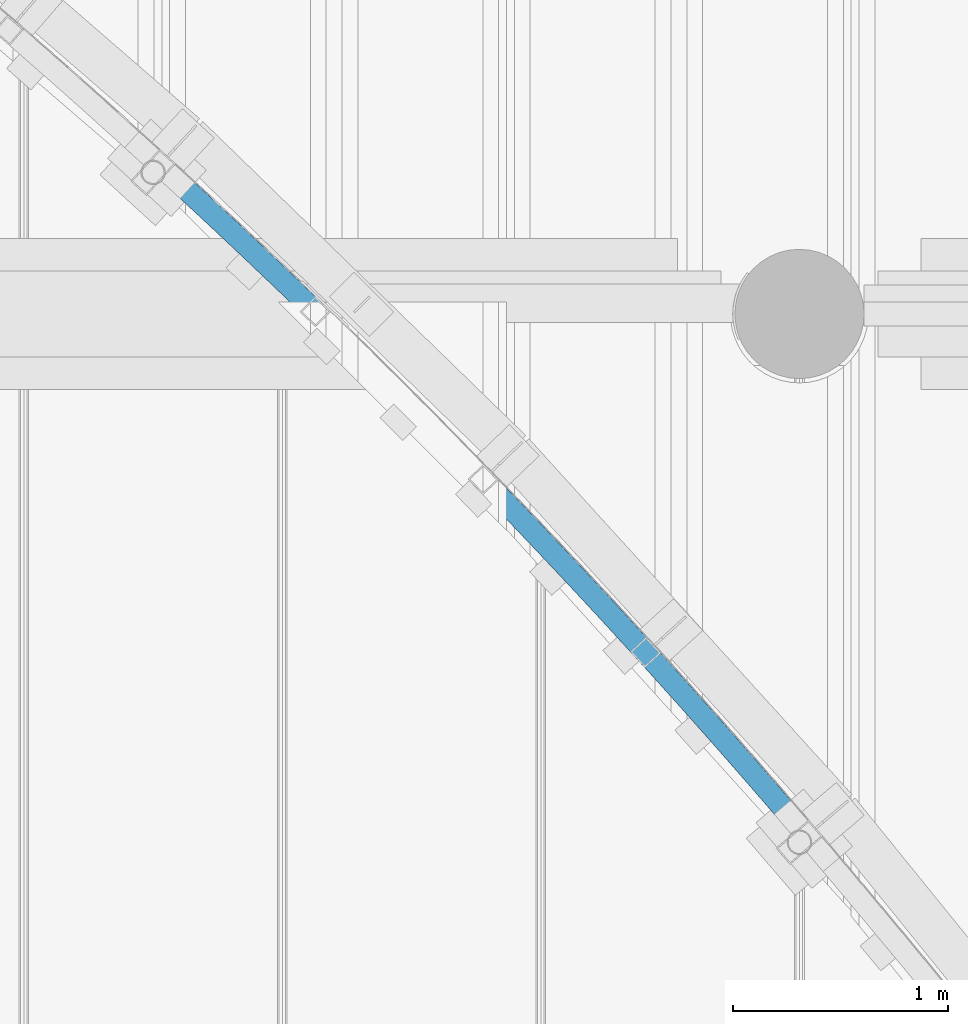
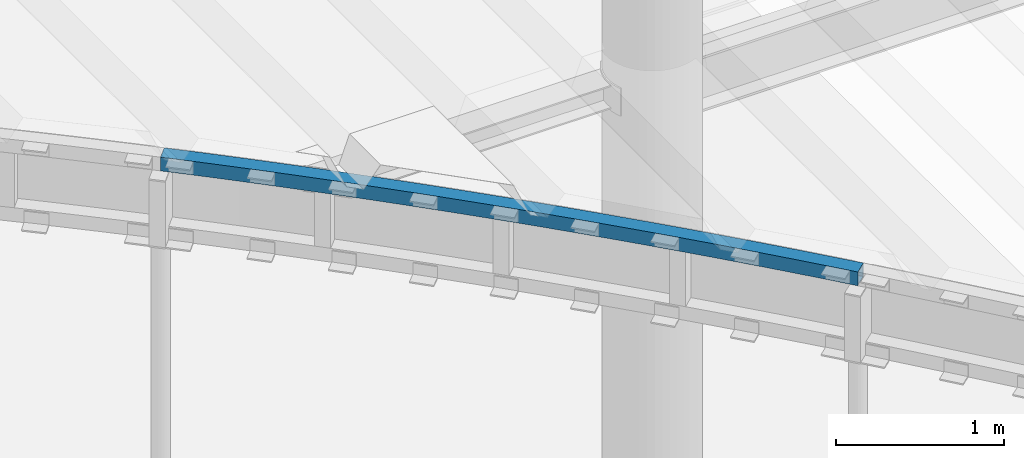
# One storey, part 11 of 98: 1 beam.
"""IFC2X3 building model written with IfcOpenShell, lengths in millimetres."""

from ifc_helpers import new_model, entity, si_unit, converted_unit, derived_unit, direction, frame, origin_with_axes, place, context, subcontext, project, spatial, faceted_brep, material, type_object, element, save


model = new_model("IFC2X3")

# Units and contexts
model_context = context("Model", 3, precision=0.01, world=frame((0.0, 4.29681676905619e-09, 0.0)), true_north=direction((4.01073788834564e-13, 1.0)))
plan_context = context("Plan", 3, precision=0.01, world=frame((0.0, 4.29681676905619e-09, 0.0)), true_north=direction((4.01073788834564e-13, 1.0)))
body_context = subcontext(model_context, "Body", "Model", "MODEL_VIEW")
ifc_project = project(units=[converted_unit("PLANEANGLEUNIT", "DEGREE", entity("IfcPositiveLengthMeasure", 0.0174532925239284), si_unit("PLANEANGLEUNIT", "RADIAN"), dimensions=[0, 0, 0, 0, 0, 0, 0]), si_unit("AREAUNIT", "SQUARE_METRE"), si_unit("LENGTHUNIT", "METRE", prefix="MILLI"), si_unit("MASSUNIT", "GRAM", prefix="KILO"), si_unit("POWERUNIT", "WATT"), si_unit("PRESSUREUNIT", "PASCAL"), si_unit("FORCEUNIT", "NEWTON", prefix="KILO"), si_unit("ELECTRICCURRENTUNIT", "AMPERE"), si_unit("THERMODYNAMICTEMPERATUREUNIT", "DEGREE_CELSIUS"), si_unit("TIMEUNIT", "SECOND"), si_unit("VOLUMEUNIT", "CUBIC_METRE"), derived_unit("LINEARVELOCITYUNIT", [(si_unit("LENGTHUNIT", "METRE"), 1), (si_unit("TIMEUNIT", "SECOND"), -1)]), derived_unit("VOLUMETRICFLOWRATEUNIT", [(si_unit("VOLUMEUNIT", "CUBIC_METRE"), 1), (si_unit("TIMEUNIT", "SECOND"), -1)]), derived_unit("THERMALTRANSMITTANCEUNIT", [(si_unit("POWERUNIT", "WATT"), 1), (si_unit("THERMODYNAMICTEMPERATUREUNIT", "KELVIN"), -1), (si_unit("AREAUNIT", "SQUARE_METRE"), -1)])], contexts=[model_context, plan_context])

# Site, building, storey
site_placement = place(None, frame((0.0, -4.29681676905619e-09, 0.0), z_axis=(0.0, 0.0, 1.0), x_axis=(1.0, 0.0, 0.0)))
site = spatial("IfcSite", under=ifc_project, at=site_placement, Name="Gardermoen", CompositionType="ELEMENT")
building_placement = place(site_placement, frame((0.0, 4.29681676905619e-09, 0.0), z_axis=(0.0, 0.0, 1.0), x_axis=(1.0, 0.0, 0.0)))
building = spatial("IfcBuilding", under=site, at=building_placement, Name="TS", CompositionType="ELEMENT")
storey_placement = place(building_placement, origin_with_axes())
storey = spatial("IfcBuildingStorey", under=building, at=storey_placement, Name="D", CompositionType="ELEMENT", Elevation=0.0)

# Beam
ifc_material = material(Name="STEEL/S355")
beam_type = type_object("IfcBeamType", Name="RHS100*6.3", PredefinedType="NOTDEFINED")
beam_placement = place(storey_placement, frame((526031.026674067, 406191.052703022, 207050.0), z_axis=(0.0, 0.0, 1.0), x_axis=(0.69236116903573, -0.721551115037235, 0.0)))
element("IfcBeam", 1, at=beam_placement, inside=storey, type_object=beam_type, material=ifc_material, Name="STÅLBJELKE", ObjectType="RHS100*6.3", context=body_context, shape_type="Brep", body=[
    faceted_brep([(-3.23943050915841, 49.894950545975, 50.0), (3.23943050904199, -49.8949505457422, 50.0), (93.3062575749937, -44.1646306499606, 50.0), (87.0862092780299, 55.6417368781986, 50.0), (183.387642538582, -38.6679055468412, 50.0), (177.426448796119, 61.1542571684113, 50.0), (273.48297955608, -33.4048122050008, 50.0), (267.780680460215, 66.4324743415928, 50.0), (363.591662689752, -28.3753860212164, 50.0), (358.148296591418, 71.4763528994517, 50.0), (453.71308591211, -23.5796608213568, 50.0), (448.528689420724, 76.2858589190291, 50.0), (543.846643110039, -19.0176688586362, 50.0), (538.921251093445, 80.8609600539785, 50.0), (633.991728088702, -14.6894408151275, 50.0), (629.325373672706, 85.2016255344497, 50.0), (724.147734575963, -10.5950058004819, 50.0), (719.740449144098, 89.3078261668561, 50.0), (814.314056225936, -6.7343913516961, 50.0), (810.165869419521, 93.1795343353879, 50.0), (904.490086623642, -3.107623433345, 50.0), (900.601026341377, 96.8167240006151, 50.0), (994.675219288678, 0.285273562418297, 50.0), (991.04531168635, 100.219370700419, 50.0), (1084.86884767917, 3.44427681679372, 50.0), (1081.49811717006, 103.387451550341, 50.0), (1175.07036519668, 6.36936508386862, 50.0), (1171.95883445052, 106.320945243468, 50.0), (1265.27916518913, 9.06051869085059, 50.0), (1262.42685513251, 109.019832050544, 50.0), (1355.49464095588, 11.5177195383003, 50.0), (1352.90157077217, 111.484093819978, 50.0), (1445.71618575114, 13.7409511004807, 50.0), (1443.38237288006, 113.713713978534, 50.0), (1535.94319278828, 15.7301984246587, 50.0), (1533.86865292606, 115.708677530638, 50.0), (1626.17505524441, 17.4854481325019, 50.0), (1624.35980234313, 117.468971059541, 50.0), (1716.41116626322, 19.0066884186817, 50.0), (1714.85521253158, 118.994582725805, 50.0), (1806.65091896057, 20.2939090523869, 50.0), (1805.35427486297, 120.285502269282, 50.0), (1896.89370642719, 21.3471013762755, 50.0), (1895.85638068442, 121.34172100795, 50.0), (1987.13892173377, 22.166258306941, 50.0), (1986.36092132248, 122.163231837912, 50.0), (2077.38595793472, 22.7513743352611, 50.0), (2076.86728808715, 122.750029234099, 50.0), (2167.63420807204, 23.102445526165, 50.0), (2167.3748722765, 123.102109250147, 50.0), (2257.88306517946, 23.2194695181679, 50.0), (2257.88306518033, 123.219469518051, 50.0), (2348.13192228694, 23.1024455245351, 50.0), (2348.39125808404, 123.102109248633, 50.0), (2438.38017242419, 22.7513743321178, 50.0), (2438.8988422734, 122.750029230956, 50.0), (2528.62720862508, 22.1662583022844, 50.0), (2529.40520903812, 122.163231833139, 50.0), (2618.87242393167, 21.3471013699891, 50.0), (2619.90974967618, 121.341721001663, 50.0), (2709.11521139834, 20.2939090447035, 50.0), (2710.41185549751, 120.285502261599, 50.0), (2799.35496409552, 19.0066884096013, 50.0), (2800.91091782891, 118.994582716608, 50.0), (2889.59107511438, 17.4854481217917, 50.0), (2891.40632801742, 117.468971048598, 50.0), (2979.8229375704, 15.7301984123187, 50.0), (2981.89747743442, 115.708677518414, 50.0), (3070.04994460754, 13.7409510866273, 50.0), (3072.38375748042, 113.713713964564, 50.0), (3160.27148940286, 11.5177195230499, 50.0), (3162.86455958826, 111.484093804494, 50.0), (3250.48696516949, 9.06051867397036, 50.0), (3253.33927522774, 109.019832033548, 50.0), (3340.69576516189, 6.36936506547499, 50.0), (3343.80729590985, 106.320945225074, 50.0), (3430.89728267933, 3.4442767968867, 50.0), (3434.26801319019, 103.387451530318, 50.0), (3521.09091106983, 0.285273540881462, 50.0), (3524.72081867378, 100.219370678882, 50.0), (3611.27604373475, -3.10762345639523, 50.0), (3615.16510401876, 96.8167239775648, 50.0), (3701.45207413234, -6.73439137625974, 50.0), (3705.60026094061, 93.1795343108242, 50.0), (3791.61839578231, -10.5950058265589, 50.0), (3796.02568121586, 89.3078261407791, 50.0), (3881.77440226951, -14.6894408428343, 50.0), (3886.44075668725, 85.2016255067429, 50.0), (3971.91948724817, -19.0176688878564, 50.0), (3976.8448792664, 80.8609600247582, 50.0), (4062.05304444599, -23.579660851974, 50.0), (4067.237440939, 76.2858588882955, 50.0), (4152.17446766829, -28.3753860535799, 50.0), (4157.61783376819, 71.4763528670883, 50.0), (4242.2831508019, -33.4048122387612, 50.0), (4247.98544989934, 66.4324743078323, 50.0), (4152.17446766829, -28.3753860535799, -50.0), (4242.2831508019, -33.4048122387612, -50.0), (4062.05304444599, -23.579660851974, -50.0), (3971.91948724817, -19.0176688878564, -50.0), (3881.77440226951, -14.6894408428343, -50.0), (3791.61839578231, -10.5950058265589, -50.0), (3701.45207413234, -6.73439137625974, -50.0), (3611.27604373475, -3.10762345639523, -50.0), (3521.09091106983, 0.285273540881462, -50.0), (3430.89728267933, 3.4442767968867, -50.0), (3340.69576516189, 6.36936506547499, -50.0), (3250.48696516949, 9.06051867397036, -50.0), (3160.27148940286, 11.5177195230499, -50.0), (3070.04994460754, 13.7409510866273, -50.0), (2979.8229375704, 15.7301984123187, -50.0), (2889.59107511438, 17.4854481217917, -50.0), (2799.35496409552, 19.0066884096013, -50.0), (2709.11521139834, 20.2939090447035, -50.0), (2618.87242393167, 21.3471013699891, -50.0), (2528.62720862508, 22.1662583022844, -50.0), (2438.38017242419, 22.7513743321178, -50.0), (2348.13192228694, 23.1024455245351, -50.0), (2257.88306517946, 23.2194695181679, -50.0), (2167.63420807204, 23.102445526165, -50.0), (2077.38595793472, 22.7513743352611, -50.0), (1987.13892173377, 22.166258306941, -50.0), (1896.89370642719, 21.3471013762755, -50.0), (1806.65091896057, 20.2939090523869, -50.0), (1716.41116626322, 19.0066884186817, -50.0), (1626.17505524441, 17.4854481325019, -50.0), (1535.94319278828, 15.7301984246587, -50.0), (1445.71618575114, 13.7409511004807, -50.0), (1355.49464095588, 11.5177195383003, -50.0), (1265.27916518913, 9.06051869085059, -50.0), (1175.07036519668, 6.36936508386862, -50.0), (1084.86884767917, 3.44427681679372, -50.0), (994.675219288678, 0.285273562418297, -50.0), (904.490086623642, -3.107623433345, -50.0), (814.314056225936, -6.7343913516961, -50.0), (724.147734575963, -10.5950058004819, -50.0), (633.991728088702, -14.6894408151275, -50.0), (543.846643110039, -19.0176688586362, -50.0), (453.71308591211, -23.5796608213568, -50.0), (363.591662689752, -28.3753860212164, -50.0), (273.48297955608, -33.4048122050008, -50.0), (183.387642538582, -38.6679055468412, -50.0), (93.3062575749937, -44.1646306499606, -50.0), (3.23943050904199, -49.8949505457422, -50.0), (-3.23943050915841, 49.894950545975, -50.0), (87.0862092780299, 55.6417368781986, -50.0), (177.426448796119, 61.1542571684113, -50.0), (267.780680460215, 66.4324743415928, -50.0), (358.148296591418, 71.4763528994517, -50.0), (448.528689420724, 76.2858589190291, -50.0), (538.921251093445, 80.8609600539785, -50.0), (629.325373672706, 85.2016255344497, -50.0), (719.740449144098, 89.3078261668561, -50.0), (810.165869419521, 93.1795343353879, -50.0), (900.601026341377, 96.8167240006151, -50.0), (991.04531168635, 100.219370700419, -50.0), (1081.49811717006, 103.387451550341, -50.0), (1171.95883445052, 106.320945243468, -50.0), (1262.42685513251, 109.019832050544, -50.0), (1352.90157077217, 111.484093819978, -50.0), (1443.38237288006, 113.713713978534, -50.0), (1533.86865292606, 115.708677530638, -50.0), (1624.35980234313, 117.468971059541, -50.0), (1714.85521253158, 118.994582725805, -50.0), (1805.35427486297, 120.285502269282, -50.0), (1895.85638068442, 121.34172100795, -50.0), (1986.36092132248, 122.163231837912, -50.0), (2076.86728808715, 122.750029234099, -50.0), (2167.3748722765, 123.102109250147, -50.0), (2257.88306518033, 123.219469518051, -50.0), (2348.39125808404, 123.102109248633, -50.0), (2438.8988422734, 122.750029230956, -50.0), (2529.40520903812, 122.163231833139, -50.0), (2619.90974967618, 121.341721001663, -50.0), (2710.41185549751, 120.285502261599, -50.0), (2800.91091782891, 118.994582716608, -50.0), (2891.40632801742, 117.468971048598, -50.0), (2981.89747743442, 115.708677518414, -50.0), (3072.38375748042, 113.713713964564, -50.0), (3162.86455958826, 111.484093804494, -50.0), (3253.33927522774, 109.019832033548, -50.0), (3343.80729590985, 106.320945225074, -50.0), (3434.26801319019, 103.387451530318, -50.0), (3524.72081867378, 100.219370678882, -50.0), (3615.16510401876, 96.8167239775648, -50.0), (3705.60026094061, 93.1795343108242, -50.0), (3796.02568121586, 89.3078261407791, -50.0), (3886.44075668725, 85.2016255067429, -50.0), (3976.8448792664, 80.8609600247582, -50.0), (4067.237440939, 76.2858588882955, -50.0), (4157.61783376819, 71.4763528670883, -50.0), (4247.98544989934, 66.4324743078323, -50.0), (4329.0159970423, 61.6989181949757, -50.0), (4323.42981294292, -38.1451514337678, -50.0), (4323.42981294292, -38.1451514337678, 50.0), (4329.0159970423, 61.6989181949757, 50.0), (-2.83126225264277, 43.6081865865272, 43.6999998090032), (2.83126225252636, -43.6081865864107, 43.6999998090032), (2.83126225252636, -43.6081865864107, -43.6999998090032), (-2.83126225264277, 43.6081865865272, -43.6999998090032), (87.4780723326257, 49.3539355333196, -43.6999998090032), (87.4780723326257, 49.3539355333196, 43.6999998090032), (92.914394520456, -37.8768293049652, 43.6999998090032), (92.914394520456, -37.8768293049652, -43.6999998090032), (183.012087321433, -32.3791091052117, -43.6999998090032), (177.802004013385, 54.8654607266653, -43.6999998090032), (177.802004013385, 54.8654607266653, 43.6999998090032), (183.012087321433, -32.3791091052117, 43.6999998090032), (273.123734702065, -27.1150629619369, 43.6999998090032), (273.123734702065, -27.1150629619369, -43.6999998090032), (268.13992531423, 60.1427250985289, -43.6999998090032), (268.13992531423, 60.1427250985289, 43.6999998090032), (358.491228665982, 65.1856931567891, 43.6999998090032), (363.248730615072, -22.0847262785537, 43.6999998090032), (363.248730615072, -22.0847262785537, -43.6999998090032), (358.491228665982, 65.1856931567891, -43.6999998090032), (448.85530640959, 69.9943309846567, -43.6999998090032), (448.85530640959, 69.9943309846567, 43.6999998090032), (453.386468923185, -17.288132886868, 43.6999998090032), (453.386468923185, -17.288132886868, -43.6999998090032), (543.536343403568, -12.7253150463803, -43.6999998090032), (539.231550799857, 74.5686062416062, -43.6999998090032), (539.231550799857, 74.5686062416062, 43.6999998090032), (543.536343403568, -12.7253150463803, 43.6999998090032), (633.697747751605, -8.39630344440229, 43.6999998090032), (633.697747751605, -8.39630344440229, -43.6999998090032), (629.619354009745, 78.9084881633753, -43.6999998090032), (629.619354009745, 78.9084881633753, 43.6999998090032), (720.018108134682, 83.0139475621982, 43.6999998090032), (723.870075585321, -4.30112719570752, 43.6999998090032), (723.870075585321, -4.30112719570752, -43.6999998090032), (720.018108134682, 83.0139475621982, -43.6999998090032), (810.427205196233, 86.8849568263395, -43.6999998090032), (810.427205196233, 86.8849568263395, 43.6999998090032), (814.052720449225, -0.439813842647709, 43.6999998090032), (814.052720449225, -0.439813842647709, -43.6999998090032), (904.2450758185, 3.18761064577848, -43.6999998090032), (900.846037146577, 90.5214899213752, -43.6999998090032), (900.846037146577, 90.5214899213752, 43.6999998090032), (904.2450758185, 3.18761064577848, 43.6999998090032), (994.446535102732, 6.58112187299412, 43.6999998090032), (994.446535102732, 6.58112187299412, -43.6999998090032), (991.273995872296, 93.9235223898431, -43.6999998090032), (991.273995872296, 93.9235223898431, 43.6999998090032), (1081.71047319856, 97.0910313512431, 43.6999998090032), (1084.65649165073, 9.7406970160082, 43.6999998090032), (1084.65649165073, 9.7406970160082, -43.6999998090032), (1081.71047319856, 97.0910313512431, -43.6999998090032), (1172.15486089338, 100.023995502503, -43.6999998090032), (1172.15486089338, 100.023995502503, 43.6999998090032), (1174.8743387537, 12.6663148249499, 43.6999998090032), (1174.8743387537, 12.6663148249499, -43.6999998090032), (1265.09946965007, 15.3579556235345, -43.6999998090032), (1262.60655067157, 102.722395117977, -43.6999998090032), (1262.60655067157, 102.722395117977, 43.6999998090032), (1265.09946965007, 15.3579556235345, 43.6999998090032), (1355.33127752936, 17.8156013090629, 43.6999998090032), (1355.33127752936, 17.8156013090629, -43.6999998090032), (1353.06493419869, 105.186212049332, -43.6999998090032), (1353.06493419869, 105.186212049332, 43.6999998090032), (1443.52940309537, 107.415429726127, 43.6999998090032), (1445.56915553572, 20.0392353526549, 43.6999998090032), (1445.56915553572, 20.0392353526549, -43.6999998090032), (1443.52940309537, 107.415429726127, -43.6999998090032), (1533.99934894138, 109.410033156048, -43.6999998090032), (1533.99934894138, 109.410033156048, 43.6999998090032), (1535.81249677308, 22.0288427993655, 43.6999998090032), (1535.81249677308, 22.0288427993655, -43.6999998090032), (1626.06069430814, 23.7844102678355, -43.6999998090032), (1624.47416327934, 111.170008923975, -43.6999998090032), (1624.47416327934, 111.170008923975, 43.6999998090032), (1626.06069430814, 23.7844102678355, 43.6999998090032), (1716.3131411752, 25.3059259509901, 43.6999998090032), (1716.3131411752, 25.3059259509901, -43.6999998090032), (1714.95323761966, 112.695345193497, -43.6999998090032), (1714.95323761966, 112.695345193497, 43.6999998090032), (1805.43596344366, 113.986031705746, 43.6999998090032), (1806.56923037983, 26.5933796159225, 43.6999998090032), (1806.56923037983, 26.5933796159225, -43.6999998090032), (1805.43596344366, 113.986031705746, -43.6999998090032), (1895.92173220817, 115.042059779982, -43.6999998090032), (1895.92173220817, 115.042059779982, 43.6999998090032), (1896.82835490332, 27.6467626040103, 43.6999998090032), (1896.82835490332, 27.6467626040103, -43.6999998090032), (1987.08990770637, 28.4660678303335, -43.6999998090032), (1986.40993534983, 115.863422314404, -43.6999998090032), (1986.40993534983, 115.863422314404, 43.6999998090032), (1987.08990770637, 28.4660678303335, 43.6999998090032), (2077.35328173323, 29.0512897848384, 43.6999998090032), (2077.35328173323, 29.0512897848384, -43.6999998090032), (2076.89996428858, 116.450113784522, -43.6999998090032), (2076.89996428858, 116.450113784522, 43.6999998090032), (2167.39121043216, 116.802130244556, 43.6999998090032), (2167.61786991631, 29.4024245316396, 43.6999998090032), (2167.61786991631, 29.4024245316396, -43.6999998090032), (2167.39121043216, 116.802130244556, -43.6999998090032), (2257.88306518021, 116.919469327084, -43.6999998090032), (2257.88306518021, 116.919469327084, 43.6999998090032), (2257.88306517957, 29.519469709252, 43.6999998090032), (2257.88306517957, 29.519469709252, -43.6999998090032), (2348.1482604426, 29.4024245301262, -43.6999998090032), (2348.37491992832, 116.802130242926, -43.6999998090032), (2348.37491992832, 116.802130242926, 43.6999998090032), (2348.1482604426, 29.4024245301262, 43.6999998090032), (2438.41284862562, 29.0512897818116, 43.6999998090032), (2438.41284862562, 29.0512897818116, -43.6999998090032), (2438.86616607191, 116.450113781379, -43.6999998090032), (2438.86616607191, 116.450113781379, 43.6999998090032), (2529.35619501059, 115.863422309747, 43.6999998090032), (2528.67622265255, 28.4660678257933, 43.6999998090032), (2528.67622265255, 28.4660678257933, -43.6999998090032), (2529.35619501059, 115.863422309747, -43.6999998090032), (2619.8443981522, 115.042059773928, -43.6999998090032), (2619.8443981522, 115.042059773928, 43.6999998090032), (2618.93777545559, 27.6467625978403, 43.6999998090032), (2618.93777545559, 27.6467625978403, -43.6999998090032), (2709.19689997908, 26.5933796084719, -43.6999998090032), (2710.33016691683, 113.986031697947, -43.6999998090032), (2710.33016691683, 113.986031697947, 43.6999998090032), (2709.19689997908, 26.5933796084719, 43.6999998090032), (2799.45298918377, 25.3059259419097, 43.6999998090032), (2799.45298918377, 25.3059259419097, -43.6999998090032), (2800.81289274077, 112.695345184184, -43.6999998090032), (2800.81289274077, 112.695345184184, 43.6999998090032), (2891.29196708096, 111.170008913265, 43.6999998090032), (2889.70543605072, 23.7844102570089, 43.6999998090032), (2889.70543605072, 23.7844102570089, -43.6999998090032), (2891.29196708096, 111.170008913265, -43.6999998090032), (2981.76678141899, 109.410033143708, -43.6999998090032), (2981.76678141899, 109.410033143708, 43.6999998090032), (2979.95363358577, 22.0288427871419, 43.6999998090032), (2979.95363358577, 22.0288427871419, -43.6999998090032), (3070.19697482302, 20.0392353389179, -43.6999998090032), (3072.23672726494, 107.41542971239, -43.6999998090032), (3072.23672726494, 107.41542971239, 43.6999998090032), (3070.19697482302, 20.0392353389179, 43.6999998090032), (3160.43485282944, 17.8156012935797, 43.6999998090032), (3160.43485282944, 17.8156012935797, -43.6999998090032), (3162.70119616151, 105.186212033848, -43.6999998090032), (3162.70119616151, 105.186212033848, 43.6999998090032), (3253.15957968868, 102.72239510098, 43.6999998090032), (3250.66666070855, 15.3579556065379, 43.6999998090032), (3250.66666070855, 15.3579556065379, -43.6999998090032), (3253.15957968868, 102.72239510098, -43.6999998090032), (3343.61126946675, 100.023995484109, -43.6999998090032), (3343.61126946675, 100.023995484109, 43.6999998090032), (3340.89179160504, 12.6663148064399, 43.6999998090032), (3340.89179160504, 12.6663148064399, -43.6999998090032), (3431.10963870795, 9.74069699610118, -43.6999998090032), (3434.05565716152, 97.0910313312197, -43.6999998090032), (3434.05565716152, 97.0910313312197, 43.6999998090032), (3431.10963870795, 9.74069699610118, 43.6999998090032), (3521.31959525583, 6.5811218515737, 43.6999998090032), (3521.31959525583, 6.5811218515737, -43.6999998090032), (3524.49213448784, 93.9235223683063, -43.6999998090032), (3524.49213448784, 93.9235223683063, 43.6999998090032), (3614.92009321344, 90.5214898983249, 43.6999998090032), (3611.52105454, 3.18761062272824, 43.6999998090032), (3611.52105454, 3.18761062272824, -43.6999998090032), (3614.92009321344, 90.5214898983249, -43.6999998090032), (3705.33892516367, 86.8849568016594, -43.6999998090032), (3705.33892516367, 86.8849568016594, 43.6999998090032), (3701.71340990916, -0.439813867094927, 43.6999998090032), (3701.71340990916, -0.439813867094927, -43.6999998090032), (3791.89605477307, -4.30112722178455, -43.6999998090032), (3795.74802222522, 83.0139475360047, -43.6999998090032), (3795.74802222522, 83.0139475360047, 43.6999998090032), (3791.89605477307, -4.30112722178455, 43.6999998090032), (3882.06838260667, -8.39630347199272, 43.6999998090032), (3882.06838260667, -8.39630347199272, -43.6999998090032), (3886.1467763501, 78.9084881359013, -43.6999998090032), (3886.1467763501, 78.9084881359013, 43.6999998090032), (3976.53457955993, 74.5686062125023, 43.6999998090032), (3972.2297869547, -12.7253150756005, 43.6999998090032), (3972.2297869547, -12.7253150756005, -43.6999998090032), (3976.53457955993, 74.5686062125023, -43.6999998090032), (4066.91082395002, 69.9943309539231, -43.6999998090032), (4066.91082395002, 69.9943309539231, 43.6999998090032), (4062.37966143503, -17.2881329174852, 43.6999998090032), (4062.37966143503, -17.2881329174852, -43.6999998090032), (4152.51739974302, -22.0847263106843, -43.6999998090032), (4157.27490169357, 65.1856931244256, -43.6999998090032), (4157.27490169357, 65.1856931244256, 43.6999998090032), (4152.51739974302, -22.0847263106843, 43.6999998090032), (4242.64239565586, -27.1150629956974, 43.6999998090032), (4242.64239565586, -27.1150629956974, -43.6999998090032), (4247.62620504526, 60.1427250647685, -43.6999998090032), (4247.62620504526, 60.1427250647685, 43.6999998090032), (4328.66406743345, 55.4087416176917, 43.6999998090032), (4323.78174255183, -31.8549748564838, 43.6999998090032), (4323.78174255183, -31.8549748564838, -43.6999998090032), (4328.66406743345, 55.4087416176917, -43.6999998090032)], [[[0, 1, 2, 3]], [[3, 2, 4, 5]], [[5, 4, 6, 7]], [[7, 6, 8, 9]], [[9, 8, 10, 11]], [[11, 10, 12, 13]], [[13, 12, 14, 15]], [[15, 14, 16, 17]], [[17, 16, 18, 19]], [[19, 18, 20, 21]], [[21, 20, 22, 23]], [[23, 22, 24, 25]], [[25, 24, 26, 27]], [[27, 26, 28, 29]], [[29, 28, 30, 31]], [[31, 30, 32, 33]], [[33, 32, 34, 35]], [[35, 34, 36, 37]], [[37, 36, 38, 39]], [[39, 38, 40, 41]], [[41, 40, 42, 43]], [[43, 42, 44, 45]], [[45, 44, 46, 47]], [[47, 46, 48, 49]], [[49, 48, 50, 51]], [[51, 50, 52, 53]], [[53, 52, 54, 55]], [[55, 54, 56, 57]], [[57, 56, 58, 59]], [[59, 58, 60, 61]], [[61, 60, 62, 63]], [[63, 62, 64, 65]], [[65, 64, 66, 67]], [[67, 66, 68, 69]], [[69, 68, 70, 71]], [[71, 70, 72, 73]], [[73, 72, 74, 75]], [[75, 74, 76, 77]], [[77, 76, 78, 79]], [[79, 78, 80, 81]], [[81, 80, 82, 83]], [[83, 82, 84, 85]], [[85, 84, 86, 87]], [[87, 86, 88, 89]], [[89, 88, 90, 91]], [[91, 90, 92, 93]], [[93, 92, 94, 95]], [[92, 96, 97, 94]], [[90, 98, 96, 92]], [[88, 99, 98, 90]], [[86, 100, 99, 88]], [[84, 101, 100, 86]], [[82, 102, 101, 84]], [[80, 103, 102, 82]], [[78, 104, 103, 80]], [[76, 105, 104, 78]], [[74, 106, 105, 76]], [[72, 107, 106, 74]], [[70, 108, 107, 72]], [[68, 109, 108, 70]], [[66, 110, 109, 68]], [[64, 111, 110, 66]], [[62, 112, 111, 64]], [[60, 113, 112, 62]], [[58, 114, 113, 60]], [[56, 115, 114, 58]], [[54, 116, 115, 56]], [[52, 117, 116, 54]], [[50, 118, 117, 52]], [[48, 119, 118, 50]], [[46, 120, 119, 48]], [[44, 121, 120, 46]], [[42, 122, 121, 44]], [[40, 123, 122, 42]], [[38, 124, 123, 40]], [[36, 125, 124, 38]], [[34, 126, 125, 36]], [[32, 127, 126, 34]], [[30, 128, 127, 32]], [[28, 129, 128, 30]], [[26, 130, 129, 28]], [[24, 131, 130, 26]], [[22, 132, 131, 24]], [[20, 133, 132, 22]], [[18, 134, 133, 20]], [[16, 135, 134, 18]], [[14, 136, 135, 16]], [[12, 137, 136, 14]], [[10, 138, 137, 12]], [[8, 139, 138, 10]], [[6, 140, 139, 8]], [[4, 141, 140, 6]], [[2, 142, 141, 4]], [[1, 143, 142, 2]], [[143, 144, 145, 142]], [[142, 145, 146, 141]], [[141, 146, 147, 140]], [[140, 147, 148, 139]], [[139, 148, 149, 138]], [[138, 149, 150, 137]], [[137, 150, 151, 136]], [[136, 151, 152, 135]], [[135, 152, 153, 134]], [[134, 153, 154, 133]], [[133, 154, 155, 132]], [[132, 155, 156, 131]], [[131, 156, 157, 130]], [[130, 157, 158, 129]], [[129, 158, 159, 128]], [[128, 159, 160, 127]], [[127, 160, 161, 126]], [[126, 161, 162, 125]], [[125, 162, 163, 124]], [[124, 163, 164, 123]], [[123, 164, 165, 122]], [[122, 165, 166, 121]], [[121, 166, 167, 120]], [[120, 167, 168, 119]], [[119, 168, 169, 118]], [[118, 169, 170, 117]], [[117, 170, 171, 116]], [[116, 171, 172, 115]], [[115, 172, 173, 114]], [[114, 173, 174, 113]], [[113, 174, 175, 112]], [[112, 175, 176, 111]], [[111, 176, 177, 110]], [[110, 177, 178, 109]], [[109, 178, 179, 108]], [[108, 179, 180, 107]], [[107, 180, 181, 106]], [[106, 181, 182, 105]], [[105, 182, 183, 104]], [[104, 183, 184, 103]], [[103, 184, 185, 102]], [[102, 185, 186, 101]], [[101, 186, 187, 100]], [[100, 187, 188, 99]], [[99, 188, 189, 98]], [[98, 189, 190, 96]], [[96, 190, 191, 97]], [[97, 191, 192, 193]], [[94, 97, 193, 194]], [[95, 94, 194, 195]], [[191, 95, 195, 192]], [[190, 93, 95, 191]], [[189, 91, 93, 190]], [[188, 89, 91, 189]], [[187, 87, 89, 188]], [[186, 85, 87, 187]], [[185, 83, 85, 186]], [[184, 81, 83, 185]], [[183, 79, 81, 184]], [[182, 77, 79, 183]], [[181, 75, 77, 182]], [[180, 73, 75, 181]], [[179, 71, 73, 180]], [[178, 69, 71, 179]], [[177, 67, 69, 178]], [[176, 65, 67, 177]], [[175, 63, 65, 176]], [[174, 61, 63, 175]], [[173, 59, 61, 174]], [[172, 57, 59, 173]], [[171, 55, 57, 172]], [[170, 53, 55, 171]], [[169, 51, 53, 170]], [[168, 49, 51, 169]], [[167, 47, 49, 168]], [[166, 45, 47, 167]], [[165, 43, 45, 166]], [[164, 41, 43, 165]], [[163, 39, 41, 164]], [[162, 37, 39, 163]], [[161, 35, 37, 162]], [[160, 33, 35, 161]], [[159, 31, 33, 160]], [[158, 29, 31, 159]], [[157, 27, 29, 158]], [[156, 25, 27, 157]], [[155, 23, 25, 156]], [[154, 21, 23, 155]], [[153, 19, 21, 154]], [[152, 17, 19, 153]], [[151, 15, 17, 152]], [[150, 13, 15, 151]], [[149, 11, 13, 150]], [[148, 9, 11, 149]], [[147, 7, 9, 148]], [[146, 5, 7, 147]], [[145, 3, 5, 146]], [[144, 0, 3, 145]], [[143, 1, 0, 144], [196, 197, 198, 199]], [[196, 199, 200, 201]], [[197, 196, 201, 202]], [[198, 197, 202, 203]], [[199, 198, 203, 200]], [[200, 203, 204, 205]], [[201, 200, 205, 206]], [[202, 201, 206, 207]], [[203, 202, 207, 204]], [[204, 207, 208, 209]], [[205, 204, 209, 210]], [[206, 205, 210, 211]], [[207, 206, 211, 208]], [[208, 211, 212, 213]], [[209, 208, 213, 214]], [[210, 209, 214, 215]], [[211, 210, 215, 212]], [[212, 215, 216, 217]], [[213, 212, 217, 218]], [[214, 213, 218, 219]], [[215, 214, 219, 216]], [[216, 219, 220, 221]], [[217, 216, 221, 222]], [[218, 217, 222, 223]], [[219, 218, 223, 220]], [[220, 223, 224, 225]], [[221, 220, 225, 226]], [[222, 221, 226, 227]], [[223, 222, 227, 224]], [[224, 227, 228, 229]], [[225, 224, 229, 230]], [[226, 225, 230, 231]], [[227, 226, 231, 228]], [[228, 231, 232, 233]], [[229, 228, 233, 234]], [[230, 229, 234, 235]], [[231, 230, 235, 232]], [[232, 235, 236, 237]], [[233, 232, 237, 238]], [[234, 233, 238, 239]], [[235, 234, 239, 236]], [[236, 239, 240, 241]], [[237, 236, 241, 242]], [[238, 237, 242, 243]], [[239, 238, 243, 240]], [[240, 243, 244, 245]], [[241, 240, 245, 246]], [[242, 241, 246, 247]], [[243, 242, 247, 244]], [[244, 247, 248, 249]], [[245, 244, 249, 250]], [[246, 245, 250, 251]], [[247, 246, 251, 248]], [[248, 251, 252, 253]], [[249, 248, 253, 254]], [[250, 249, 254, 255]], [[251, 250, 255, 252]], [[252, 255, 256, 257]], [[253, 252, 257, 258]], [[254, 253, 258, 259]], [[255, 254, 259, 256]], [[256, 259, 260, 261]], [[257, 256, 261, 262]], [[258, 257, 262, 263]], [[259, 258, 263, 260]], [[260, 263, 264, 265]], [[261, 260, 265, 266]], [[262, 261, 266, 267]], [[263, 262, 267, 264]], [[264, 267, 268, 269]], [[265, 264, 269, 270]], [[266, 265, 270, 271]], [[267, 266, 271, 268]], [[268, 271, 272, 273]], [[269, 268, 273, 274]], [[270, 269, 274, 275]], [[271, 270, 275, 272]], [[272, 275, 276, 277]], [[273, 272, 277, 278]], [[274, 273, 278, 279]], [[275, 274, 279, 276]], [[276, 279, 280, 281]], [[277, 276, 281, 282]], [[278, 277, 282, 283]], [[279, 278, 283, 280]], [[280, 283, 284, 285]], [[281, 280, 285, 286]], [[282, 281, 286, 287]], [[283, 282, 287, 284]], [[284, 287, 288, 289]], [[285, 284, 289, 290]], [[286, 285, 290, 291]], [[287, 286, 291, 288]], [[288, 291, 292, 293]], [[289, 288, 293, 294]], [[290, 289, 294, 295]], [[291, 290, 295, 292]], [[292, 295, 296, 297]], [[293, 292, 297, 298]], [[294, 293, 298, 299]], [[295, 294, 299, 296]], [[296, 299, 300, 301]], [[297, 296, 301, 302]], [[298, 297, 302, 303]], [[299, 298, 303, 300]], [[300, 303, 304, 305]], [[301, 300, 305, 306]], [[302, 301, 306, 307]], [[303, 302, 307, 304]], [[304, 307, 308, 309]], [[305, 304, 309, 310]], [[306, 305, 310, 311]], [[307, 306, 311, 308]], [[308, 311, 312, 313]], [[309, 308, 313, 314]], [[310, 309, 314, 315]], [[311, 310, 315, 312]], [[312, 315, 316, 317]], [[313, 312, 317, 318]], [[314, 313, 318, 319]], [[315, 314, 319, 316]], [[316, 319, 320, 321]], [[317, 316, 321, 322]], [[318, 317, 322, 323]], [[319, 318, 323, 320]], [[320, 323, 324, 325]], [[321, 320, 325, 326]], [[322, 321, 326, 327]], [[323, 322, 327, 324]], [[324, 327, 328, 329]], [[325, 324, 329, 330]], [[326, 325, 330, 331]], [[327, 326, 331, 328]], [[328, 331, 332, 333]], [[329, 328, 333, 334]], [[330, 329, 334, 335]], [[331, 330, 335, 332]], [[332, 335, 336, 337]], [[333, 332, 337, 338]], [[334, 333, 338, 339]], [[335, 334, 339, 336]], [[336, 339, 340, 341]], [[337, 336, 341, 342]], [[338, 337, 342, 343]], [[339, 338, 343, 340]], [[340, 343, 344, 345]], [[341, 340, 345, 346]], [[342, 341, 346, 347]], [[343, 342, 347, 344]], [[344, 347, 348, 349]], [[345, 344, 349, 350]], [[346, 345, 350, 351]], [[347, 346, 351, 348]], [[348, 351, 352, 353]], [[349, 348, 353, 354]], [[350, 349, 354, 355]], [[351, 350, 355, 352]], [[352, 355, 356, 357]], [[353, 352, 357, 358]], [[354, 353, 358, 359]], [[355, 354, 359, 356]], [[356, 359, 360, 361]], [[357, 356, 361, 362]], [[358, 357, 362, 363]], [[359, 358, 363, 360]], [[360, 363, 364, 365]], [[361, 360, 365, 366]], [[362, 361, 366, 367]], [[363, 362, 367, 364]], [[364, 367, 368, 369]], [[365, 364, 369, 370]], [[366, 365, 370, 371]], [[367, 366, 371, 368]], [[368, 371, 372, 373]], [[369, 368, 373, 374]], [[370, 369, 374, 375]], [[371, 370, 375, 372]], [[372, 375, 376, 377]], [[373, 372, 377, 378]], [[374, 373, 378, 379]], [[375, 374, 379, 376]], [[376, 379, 380, 381]], [[377, 376, 381, 382]], [[378, 377, 382, 383]], [[379, 378, 383, 380]], [[380, 383, 384, 385]], [[381, 380, 385, 386]], [[382, 381, 386, 387]], [[383, 382, 387, 384]], [[384, 387, 388, 389]], [[385, 384, 389, 390]], [[386, 385, 390, 391]], [[387, 386, 391, 388]], [[193, 192, 195, 194], [390, 389, 388, 391]]]),
])

save(model, "model.ifc")
